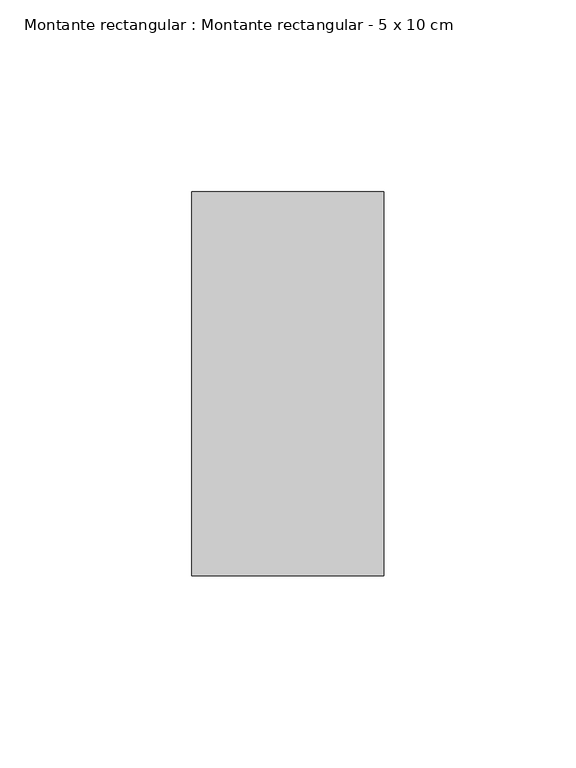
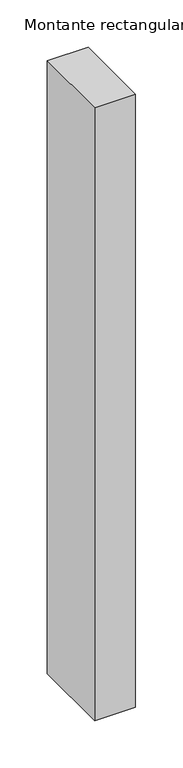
"""IFC4 building model written with IfcOpenShell, lengths in millimetres: member geometry, Montante rectangular : Montante rectangular - 5 x 10 cm."""

import ifcopenshell
import ifcopenshell.guid

model = None  # the IFC model being written
_history = None  # IfcOwnerHistory: only IFC2X3 demands one
_inside = {}  # id of a spatial element -> (the spatial element, [elements in it])
_under = {}  # id of a project, library or spatial element -> (it, [spatial elements below it])
_declared = {}  # id of a project -> (the project, [libraries it declares])
_typed = {}  # id of a type object -> (the type object, [elements of that type])
_made_of = {}  # id of a material, layer set ... -> (it, [elements and type objects made of it])


def new_model(schema):
    """Start an empty IFC model of exactly this schema.

    Asked for "IFC4X3", IfcOpenShell would pick the latest addendum, in which some entities
    have other attributes; the version numbers below select the first issue.
    IFC2X3 requires an IfcOwnerHistory on every rooted entity: one is made here for all.
    """
    global model, _history
    if schema == "IFC4X3":
        model = ifcopenshell.file(schema_version=(4, 3, 0, 0))
    else:
        model = ifcopenshell.file(schema=schema)
    _inside.clear()
    _under.clear()
    _declared.clear()
    _typed.clear()
    _made_of.clear()
    _history = None
    if model.schema == "IFC2X3":
        org = make("IfcOrganization", Name="unknown")
        user = make(
            "IfcPersonAndOrganization",
            ThePerson=make("IfcPerson", FamilyName="unknown"),
            TheOrganization=org,
        )
        app = make(
            "IfcApplication",
            ApplicationDeveloper=org,
            Version="unknown",
            ApplicationFullName="unknown",
            ApplicationIdentifier="unknown",
        )
        _history = make(
            "IfcOwnerHistory",
            OwningUser=user,
            OwningApplication=app,
            ChangeAction="ADDED",
            CreationDate=0,
        )
    return model


def make(cls, **values):
    """One entity of the class cls with the attributes given. An attribute that is None is left unset."""
    return model.create_entity(
        cls, **{name: value for name, value in values.items() if value is not None}
    )


def rooted(cls, **values):
    """An entity with a GlobalId (a new one), such as an element, a storey or a relation."""
    return make(cls, GlobalId=ifcopenshell.guid.new(), OwnerHistory=_history, **values)


def si_unit(unit_type, name, prefix=None):
    """IfcSIUnit, for example si_unit("LENGTHUNIT", "METRE", prefix="MILLI")."""
    return make("IfcSIUnit", UnitType=unit_type, Prefix=prefix, Name=name)


def assignment(units):
    """IfcUnitAssignment: the units of a project."""
    return None if units is None else make("IfcUnitAssignment", Units=units)


def point(xyz):
    """IfcCartesianPoint."""
    return None if xyz is None else make("IfcCartesianPoint", Coordinates=xyz)


def direction(xyz):
    """IfcDirection."""
    return None if xyz is None else make("IfcDirection", DirectionRatios=xyz)


def frame(location, z_axis=None, x_axis=None):
    """IfcAxis2Placement3D, a coordinate frame: its origin and axes. An axis left out is left unset."""
    return make(
        "IfcAxis2Placement3D",
        Location=point(location),
        Axis=direction(z_axis),
        RefDirection=direction(x_axis),
    )


def origin():
    """The frame at (0, 0, 0) with its axes left unset."""
    return frame((0.0, 0.0, 0.0))


def place(relative_to, where):
    """IfcLocalPlacement: puts the frame where relative to a parent placement (None: the world)."""
    return make(
        "IfcLocalPlacement", PlacementRelTo=relative_to, RelativePlacement=where
    )


def context(
    kind, dimensions, precision=None, world=None, true_north=None, identifier=None
):
    """IfcGeometricRepresentationContext, for example the 3D "Model" context."""
    return make(
        "IfcGeometricRepresentationContext",
        ContextIdentifier=identifier,
        ContextType=kind,
        CoordinateSpaceDimension=dimensions,
        Precision=precision,
        WorldCoordinateSystem=world,
        TrueNorth=true_north,
    )


def project(units=None, contexts=None):
    """IfcProject with its units and contexts."""
    return rooted(
        "IfcProject",
        Name="project",
        RepresentationContexts=contexts,
        UnitsInContext=assignment(units),
    )


def spatial(cls, under=None, at=None, **own):
    """A site, building, storey or space (cls), placed at a placement, below another one or the project."""
    s = rooted(cls, ObjectPlacement=at, **own)
    if under is not None:
        _under.setdefault(under.id(), (under, []))[1].append(s)
    return s


def polyline(points):
    """IfcPolyline through the points."""
    return make("IfcPolyline", Points=[point(p) for p in points])


def outline(outer, holes=None, kind="AREA"):
    """IfcArbitraryClosedProfileDef: a profile drawn as a closed curve; with holes, ...WithVoids."""
    if holes is None:
        return make("IfcArbitraryClosedProfileDef", ProfileType=kind, OuterCurve=outer)
    return make(
        "IfcArbitraryProfileDefWithVoids",
        ProfileType=kind,
        OuterCurve=outer,
        InnerCurves=holes,
    )


def extrude(swept, where, along, depth):
    """IfcExtrudedAreaSolid: the profile swept, set in the frame where, extruded along a direction by depth."""
    return make(
        "IfcExtrudedAreaSolid",
        SweptArea=swept,
        Position=where,
        ExtrudedDirection=direction(along),
        Depth=depth,
    )


def shape(context_of_items, identifier, shape_type, items):
    """IfcShapeRepresentation: the items that make up one representation, for example the "Body"."""
    return make(
        "IfcShapeRepresentation",
        ContextOfItems=context_of_items,
        RepresentationIdentifier=identifier,
        RepresentationType=shape_type,
        Items=items,
    )


def source(mapping_origin, context_of_items, identifier, shape_type, items):
    """IfcRepresentationMap: a shape defined once, which mapped items show again and again."""
    return make(
        "IfcRepresentationMap",
        MappingOrigin=mapping_origin,
        MappedRepresentation=shape(context_of_items, identifier, shape_type, items),
    )


def transform(
    local_origin,
    x_axis=None,
    y_axis=None,
    z_axis=None,
    scale=None,
    scale2=None,
    scale3=None,
    uniform=True,
):
    """IfcCartesianTransformationOperator3D, or its non-uniform kind. x_axis, y_axis, z_axis: its Axis1, 2, 3."""
    if uniform:
        return make(
            "IfcCartesianTransformationOperator3D",
            Axis1=direction(x_axis),
            Axis2=direction(y_axis),
            LocalOrigin=point(local_origin),
            Scale=scale,
            Axis3=direction(z_axis),
        )
    return make(
        "IfcCartesianTransformationOperator3DnonUniform",
        Axis1=direction(x_axis),
        Axis2=direction(y_axis),
        LocalOrigin=point(local_origin),
        Scale=scale,
        Axis3=direction(z_axis),
        Scale2=scale2,
        Scale3=scale3,
    )


def mapped(mapping_source, mapping_target):
    """IfcMappedItem: shows the shape of a source again, moved by a transform."""
    return make(
        "IfcMappedItem", MappingSource=mapping_source, MappingTarget=mapping_target
    )


def made_of(thing, what):
    """Note that an element or type object is made of a material, layer set ...; save() writes the relation."""
    if what is not None:
        _made_of.setdefault(what.id(), (what, []))[1].append(thing)
    return thing


def element(
    cls,
    number,
    at=None,
    inside=None,
    cuts=None,
    type_object=None,
    material=None,
    context=None,
    identifier="Body",
    shape_type=None,
    held_by="IfcProductDefinitionShape",
    body=None,
    shapes=None,
    **own,
):
    """One element of the class cls, such as IfcWall. Its Tag is "e" and its number.

    at: its placement. inside: the storey or other place that contains it. cuts: it is an
    opening in that element (IfcRelVoidsElement). A single representation is given by context,
    identifier, shape_type and body (its items); several are given by shapes. held_by: the class
    of the entity that holds the representations. save() writes the other relations.
    """
    e = rooted(cls, Tag="e%d" % number, ObjectPlacement=at, **own)
    if body is not None:
        shapes = [shape(context, identifier, shape_type, body)]
    if shapes is not None:
        e.Representation = make(held_by, Representations=shapes)
    if inside is not None:
        _inside.setdefault(inside.id(), (inside, []))[1].append(e)
    if cuts is not None:
        rooted(
            "IfcRelVoidsElement", RelatingBuildingElement=cuts, RelatedOpeningElement=e
        )
    if type_object is not None:
        _typed.setdefault(type_object.id(), (type_object, []))[1].append(e)
    return made_of(e, material)


def aggregate(whole, parts):
    """IfcRelAggregates: a whole, such as a stair, and the parts it consists of."""
    return rooted("IfcRelAggregates", RelatingObject=whole, RelatedObjects=parts)


def save(model, path):
    """Write the relations noted so far, then the file.

    IfcRelAggregates (storeys below a building ...), IfcRelContainedInSpatialStructure (elements
    in a storey), IfcRelDefinesByType, IfcRelAssociatesMaterial and IfcRelDeclares: one each for
    every whole, place, type object, material and project.
    """
    for whole, parts in _under.values():
        aggregate(whole, parts)
    for where, things in _inside.values():
        rooted(
            "IfcRelContainedInSpatialStructure",
            RelatedElements=things,
            RelatingStructure=where,
        )
    for kind, things in _typed.values():
        rooted("IfcRelDefinesByType", RelatedObjects=things, RelatingType=kind)
    for what, things in _made_of.values():
        rooted("IfcRelAssociatesMaterial", RelatedObjects=things, RelatingMaterial=what)
    for by, libraries in _declared.values():
        rooted("IfcRelDeclares", RelatingContext=by, RelatedDefinitions=libraries)
    model.write(path)


def montante_rectangular_montante_rectangular_5_x_10_cm_de014126(model_context):
    return source(origin(), model_context, "Body", "SweptSolid", [
        extrude(outline(polyline([(0.0, 50.0), (0.0, -50.0), (-50.0, -50.0), (-50.0, 50.0), (0.0, 50.0)])), frame((0.0, 0.0, -791.6666667), z_axis=(0.0, 0.0, 1.0), x_axis=(1.0, 0.0, 0.0)), (0.0, 0.0, 1.0), 791.6666667),
    ])


if __name__ == "__main__":
    model = new_model("IFC4")
    model_context = context("Model", 3, world=origin())
    ifc_project = project(units=[si_unit("LENGTHUNIT", "METRE", prefix="MILLI")], contexts=[model_context])
    site = spatial("IfcSite", under=ifc_project)
    building = spatial("IfcBuilding", under=site)
    placement = place(None, origin())
    montante_rectangular_montante_rectangular_5_x_10_cm_shape = montante_rectangular_montante_rectangular_5_x_10_cm_de014126(model_context)
    element("IfcMember", 1, ObjectType="Montante rectangular : Montante rectangular - 5 x 10 cm", at=placement, inside=building, context=model_context, shape_type="MappedRepresentation", body=[
        mapped(montante_rectangular_montante_rectangular_5_x_10_cm_shape, transform((0.0, 0.0, 0.0), x_axis=(1.0, 0.0, 0.0), y_axis=(0.0, 1.0, 0.0), z_axis=(0.0, 0.0, 1.0))),
    ])
    save(model, "model.ifc")
